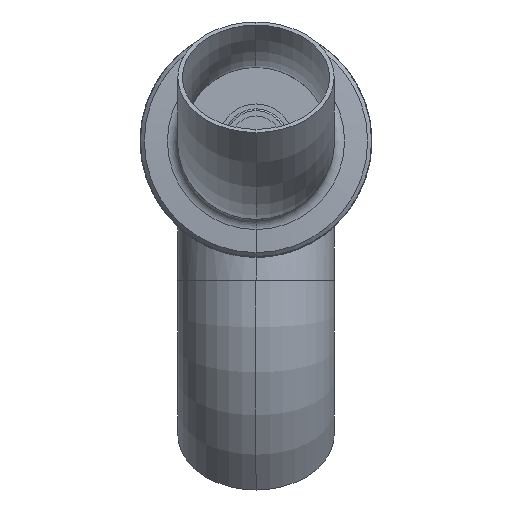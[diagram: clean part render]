
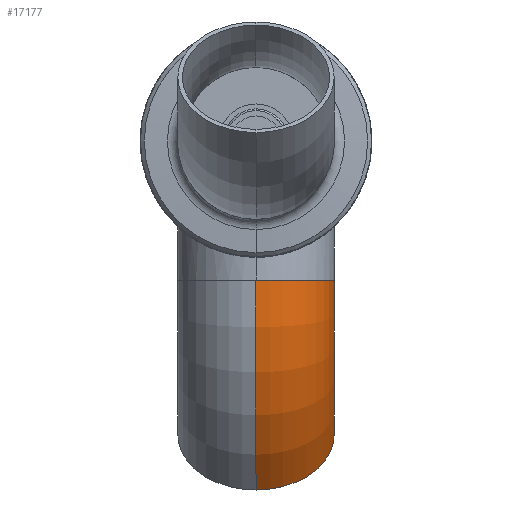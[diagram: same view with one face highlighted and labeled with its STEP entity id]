
A CAD part, front view. The second image highlights one B-rep face of the part: STEP entity #17177.
In plain terms, the highlighted toroidal (fillet/blend) face has major radius 305 mm and minor radius 109.55 mm.
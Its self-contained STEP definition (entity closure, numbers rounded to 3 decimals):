
#16501 = FACE_OUTER_BOUND ( 'NONE', #11998, .T. ) ;
#16502 = TOROIDAL_SURFACE ( 'NONE', #16503, 305., 109.55 ) ;
#16503 = AXIS2_PLACEMENT_3D ( 'NONE', #16504, #16505, #16506 ) ;
#16504 = CARTESIAN_POINT ( 'NONE',  ( 0., -305., 0. ) ) ;
#16505 = DIRECTION ( 'NONE',  ( 0., 0., 1. ) ) ;
#16506 = DIRECTION ( 'NONE',  ( 1., 0., 0. ) ) ;
#17177 = ADVANCED_FACE ( 'NONE', ( #16501 ), #16502, .T. ) ;
#2352 = VERTEX_POINT ( 'NONE', #7845 ) ;
#18777 = ORIENTED_EDGE ( 'NONE', *, *, #10049, .T. ) ;
#19542 = EDGE_CURVE ( 'NONE', #4121, #5544, #14248, .T. ) ;
#4121 = VERTEX_POINT ( 'NONE', #9334 ) ;
#5544 = VERTEX_POINT ( 'NONE', #14247 ) ;
#7681 = CIRCLE ( 'NONE', #7682, 109.55 ) ;
#7682 = AXIS2_PLACEMENT_3D ( 'NONE', #7683, #7684, #7685 ) ;
#7683 = CARTESIAN_POINT ( 'NONE',  ( 215.668, -89.332, 0. ) ) ;
#7684 = DIRECTION ( 'NONE',  ( 0.707, -0.707, 0. ) ) ;
#7685 = DIRECTION ( 'NONE',  ( 0., 0., -1. ) ) ;
#7845 = CARTESIAN_POINT ( 'NONE',  ( 293.131, -11.869, 0. ) ) ;
#9334 = CARTESIAN_POINT ( 'NONE',  ( 0., 109.55, 0. ) ) ;
#9674 = ORIENTED_EDGE ( 'NONE', *, *, #19542, .T. ) ;
#10049 = EDGE_CURVE ( 'NONE', #2352, #4121, #13989, .T. ) ;
#10392 = CARTESIAN_POINT ( 'NONE',  ( 138.204, -166.796, 0. ) ) ;
#11696 = EDGE_CURVE ( 'NONE', #2352, #14169, #7681, .T. ) ;
#11874 = ORIENTED_EDGE ( 'NONE', *, *, #11696, .F. ) ;
#11998 = EDGE_LOOP ( 'NONE', ( #11874, #18777, #9674, #12357 ) ) ;
#12357 = ORIENTED_EDGE ( 'NONE', *, *, #14893, .F. ) ;
#13989 = CIRCLE ( 'NONE', #13990, 414.55 ) ;
#13990 = AXIS2_PLACEMENT_3D ( 'NONE', #13991, #13992, #13993 ) ;
#13991 = CARTESIAN_POINT ( 'NONE',  ( 0., -305., 0. ) ) ;
#13992 = DIRECTION ( 'NONE',  ( 0., 0., 1. ) ) ;
#13993 = DIRECTION ( 'NONE',  ( 1., 0., 0. ) ) ;
#14169 = VERTEX_POINT ( 'NONE', #10392 ) ;
#14247 = CARTESIAN_POINT ( 'NONE',  ( 0., -109.55, 0. ) ) ;
#14248 = CIRCLE ( 'NONE', #14249, 109.55 ) ;
#14249 = AXIS2_PLACEMENT_3D ( 'NONE', #14250, #14251, #14252 ) ;
#14250 = CARTESIAN_POINT ( 'NONE',  ( 0., 0., 0. ) ) ;
#14251 = DIRECTION ( 'NONE',  ( 1., 0., 0. ) ) ;
#14252 = DIRECTION ( 'NONE',  ( 0., 0., -1. ) ) ;
#14261 = CIRCLE ( 'NONE', #14262, 195.45 ) ;
#14262 = AXIS2_PLACEMENT_3D ( 'NONE', #14263, #14264, #14265 ) ;
#14263 = CARTESIAN_POINT ( 'NONE',  ( 0., -305., 0. ) ) ;
#14264 = DIRECTION ( 'NONE',  ( 0., 0., 1. ) ) ;
#14265 = DIRECTION ( 'NONE',  ( 1., 0., 0. ) ) ;
#14893 = EDGE_CURVE ( 'NONE', #14169, #5544, #14261, .T. ) ;
